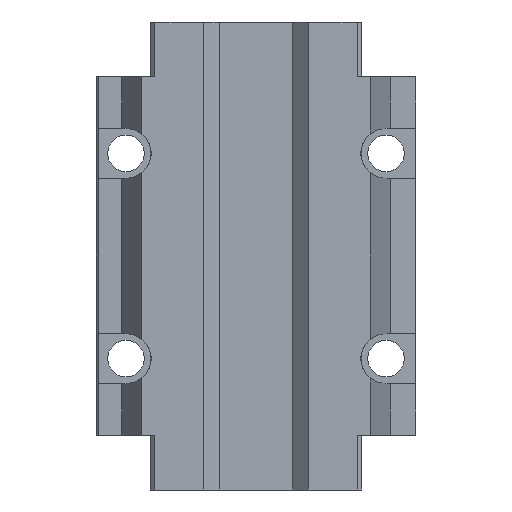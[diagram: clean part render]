
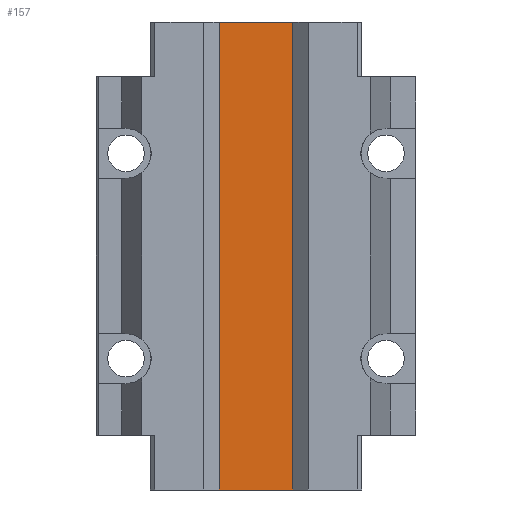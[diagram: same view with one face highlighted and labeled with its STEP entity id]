
A CAD part, front view. The second image highlights one B-rep face of the part: STEP entity #157.
In plain terms, the highlighted planar face has unit normal (0, -1, 0).
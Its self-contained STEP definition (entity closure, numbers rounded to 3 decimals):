
#113 = EDGE_CURVE ( 'NONE', #4261, #2711, #4737, .T. ) ;
#157 = ADVANCED_FACE ( 'NONE', ( #5802 ), #2004, .F. ) ;
#237 = ORIENTED_EDGE ( 'NONE', *, *, #2057, .F. ) ;
#332 = EDGE_CURVE ( 'NONE', #2711, #6794, #3414, .T. ) ;
#672 = ORIENTED_EDGE ( 'NONE', *, *, #113, .F. ) ;
#1443 = DIRECTION ( 'NONE',  ( 0., 0., 1. ) ) ;
#1463 = DIRECTION ( 'NONE',  ( 0., 1., 0. ) ) ;
#1885 = VECTOR ( 'NONE', #3048, 1000. ) ;
#1937 = CARTESIAN_POINT ( 'NONE',  ( -11.5, 22., -48.8 ) ) ;
#1960 = VECTOR ( 'NONE', #3421, 1000. ) ;
#2004 = PLANE ( 'NONE',  #2041 ) ;
#2041 = AXIS2_PLACEMENT_3D ( 'NONE', #1937, #1463, #1443 ) ;
#2057 = EDGE_CURVE ( 'NONE', #4722, #4261, #3474, .T. ) ;
#2155 = ORIENTED_EDGE ( 'NONE', *, *, #6144, .F. ) ;
#2651 = DIRECTION ( 'NONE',  ( 1., 0., 0. ) ) ;
#2711 = VERTEX_POINT ( 'NONE', #2854 ) ;
#2854 = CARTESIAN_POINT ( 'NONE',  ( 8.05, 22., -51.3 ) ) ;
#3048 = DIRECTION ( 'NONE',  ( 0., 0., -1. ) ) ;
#3080 = DIRECTION ( 'NONE',  ( 0., 0., 1. ) ) ;
#3414 = LINE ( 'NONE', #3916, #1960 ) ;
#3421 = DIRECTION ( 'NONE',  ( -1., 0., 0. ) ) ;
#3474 = LINE ( 'NONE', #6373, #6266 ) ;
#3680 = LINE ( 'NONE', #5732, #6308 ) ;
#3916 = CARTESIAN_POINT ( 'NONE',  ( -11.5, 22., -51.3 ) ) ;
#4044 = CARTESIAN_POINT ( 'NONE',  ( 8.05, 22., -48.8 ) ) ;
#4261 = VERTEX_POINT ( 'NONE', #6564 ) ;
#4722 = VERTEX_POINT ( 'NONE', #6340 ) ;
#4737 = LINE ( 'NONE', #4044, #1885 ) ;
#5187 = ORIENTED_EDGE ( 'NONE', *, *, #332, .F. ) ;
#5732 = CARTESIAN_POINT ( 'NONE',  ( -8.05, 22., -48.8 ) ) ;
#5802 = FACE_OUTER_BOUND ( 'NONE', #6168, .T. ) ;
#6144 = EDGE_CURVE ( 'NONE', #6794, #4722, #3680, .T. ) ;
#6168 = EDGE_LOOP ( 'NONE', ( #672, #237, #2155, #5187 ) ) ;
#6266 = VECTOR ( 'NONE', #2651, 1000. ) ;
#6308 = VECTOR ( 'NONE', #3080, 1000. ) ;
#6340 = CARTESIAN_POINT ( 'NONE',  ( -8.05, 22., 51.3 ) ) ;
#6373 = CARTESIAN_POINT ( 'NONE',  ( -11.5, 22., 51.3 ) ) ;
#6564 = CARTESIAN_POINT ( 'NONE',  ( 8.05, 22., 51.3 ) ) ;
#6749 = CARTESIAN_POINT ( 'NONE',  ( -8.05, 22., -51.3 ) ) ;
#6794 = VERTEX_POINT ( 'NONE', #6749 ) ;
